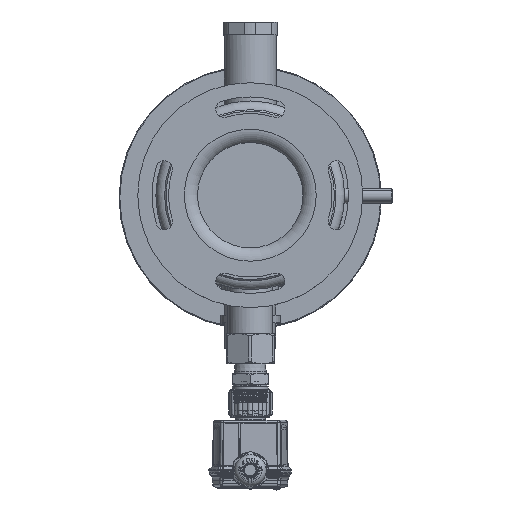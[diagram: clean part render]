
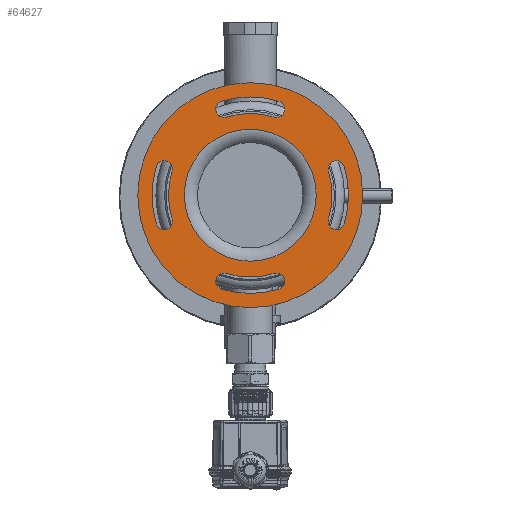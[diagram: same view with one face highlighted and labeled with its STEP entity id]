
A CAD part, top view. The second image highlights one B-rep face of the part: STEP entity #64627.
In plain terms, the highlighted planar face has unit normal (0, 0, 1).
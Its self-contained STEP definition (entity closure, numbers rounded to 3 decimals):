
#1595=FACE_BOUND('',#13892,.T.);
#1596=FACE_BOUND('',#13893,.T.);
#1597=FACE_BOUND('',#13894,.T.);
#1598=FACE_BOUND('',#13895,.T.);
#1599=FACE_BOUND('',#13896,.T.);
#6390=PLANE('',#69950);
#10025=FACE_OUTER_BOUND('',#13891,.T.);
#13891=EDGE_LOOP('',(#57971,#57972));
#13892=EDGE_LOOP('',(#57973,#57974,#57975,#57976));
#13893=EDGE_LOOP('',(#57977,#57978,#57979,#57980));
#13894=EDGE_LOOP('',(#57981,#57982,#57983,#57984));
#13895=EDGE_LOOP('',(#57985,#57986,#57987,#57988));
#13896=EDGE_LOOP('',(#57989,#57990));
#23584=CIRCLE('',#69904,5.5);
#23586=CIRCLE('',#69907,65.5);
#23588=CIRCLE('',#69910,5.5);
#23590=CIRCLE('',#69913,54.5);
#23592=CIRCLE('',#69916,5.5);
#23594=CIRCLE('',#69919,65.5);
#23596=CIRCLE('',#69922,5.5);
#23598=CIRCLE('',#69925,54.5);
#23600=CIRCLE('',#69928,5.5);
#23602=CIRCLE('',#69931,65.5);
#23604=CIRCLE('',#69934,5.5);
#23606=CIRCLE('',#69937,54.5);
#23608=CIRCLE('',#69940,5.5);
#23610=CIRCLE('',#69943,65.5);
#23612=CIRCLE('',#69946,5.5);
#23614=CIRCLE('',#69949,54.5);
#23615=CIRCLE('',#69951,75.);
#23616=CIRCLE('',#69952,75.);
#23617=CIRCLE('',#69953,44.);
#23618=CIRCLE('',#69954,44.);
#29592=VERTEX_POINT('',#164889);
#29593=VERTEX_POINT('',#164891);
#29595=VERTEX_POINT('',#164897);
#29597=VERTEX_POINT('',#164903);
#29600=VERTEX_POINT('',#164913);
#29601=VERTEX_POINT('',#164915);
#29603=VERTEX_POINT('',#164921);
#29605=VERTEX_POINT('',#164927);
#29608=VERTEX_POINT('',#164937);
#29609=VERTEX_POINT('',#164939);
#29611=VERTEX_POINT('',#164945);
#29613=VERTEX_POINT('',#164951);
#29616=VERTEX_POINT('',#164961);
#29617=VERTEX_POINT('',#164963);
#29619=VERTEX_POINT('',#164969);
#29621=VERTEX_POINT('',#164975);
#29622=VERTEX_POINT('',#164982);
#29623=VERTEX_POINT('',#164983);
#29624=VERTEX_POINT('',#164986);
#29625=VERTEX_POINT('',#164987);
#39041=EDGE_CURVE('',#29593,#29592,#23584,.T.);
#39044=EDGE_CURVE('',#29595,#29593,#23586,.T.);
#39047=EDGE_CURVE('',#29597,#29595,#23588,.T.);
#39050=EDGE_CURVE('',#29592,#29597,#23590,.T.);
#39053=EDGE_CURVE('',#29601,#29600,#23592,.T.);
#39056=EDGE_CURVE('',#29603,#29601,#23594,.T.);
#39059=EDGE_CURVE('',#29605,#29603,#23596,.T.);
#39062=EDGE_CURVE('',#29600,#29605,#23598,.T.);
#39065=EDGE_CURVE('',#29609,#29608,#23600,.T.);
#39068=EDGE_CURVE('',#29611,#29609,#23602,.T.);
#39071=EDGE_CURVE('',#29613,#29611,#23604,.T.);
#39074=EDGE_CURVE('',#29608,#29613,#23606,.T.);
#39077=EDGE_CURVE('',#29617,#29616,#23608,.T.);
#39080=EDGE_CURVE('',#29619,#29617,#23610,.T.);
#39083=EDGE_CURVE('',#29621,#29619,#23612,.T.);
#39086=EDGE_CURVE('',#29616,#29621,#23614,.T.);
#39087=EDGE_CURVE('',#29622,#29623,#23615,.T.);
#39088=EDGE_CURVE('',#29623,#29622,#23616,.T.);
#39089=EDGE_CURVE('',#29624,#29625,#23617,.T.);
#39090=EDGE_CURVE('',#29625,#29624,#23618,.T.);
#57971=ORIENTED_EDGE('',*,*,#39087,.T.);
#57972=ORIENTED_EDGE('',*,*,#39088,.T.);
#57973=ORIENTED_EDGE('',*,*,#39047,.T.);
#57974=ORIENTED_EDGE('',*,*,#39044,.T.);
#57975=ORIENTED_EDGE('',*,*,#39041,.T.);
#57976=ORIENTED_EDGE('',*,*,#39050,.T.);
#57977=ORIENTED_EDGE('',*,*,#39059,.T.);
#57978=ORIENTED_EDGE('',*,*,#39056,.T.);
#57979=ORIENTED_EDGE('',*,*,#39053,.T.);
#57980=ORIENTED_EDGE('',*,*,#39062,.T.);
#57981=ORIENTED_EDGE('',*,*,#39071,.T.);
#57982=ORIENTED_EDGE('',*,*,#39068,.T.);
#57983=ORIENTED_EDGE('',*,*,#39065,.T.);
#57984=ORIENTED_EDGE('',*,*,#39074,.T.);
#57985=ORIENTED_EDGE('',*,*,#39083,.T.);
#57986=ORIENTED_EDGE('',*,*,#39080,.T.);
#57987=ORIENTED_EDGE('',*,*,#39077,.T.);
#57988=ORIENTED_EDGE('',*,*,#39086,.T.);
#57989=ORIENTED_EDGE('',*,*,#39089,.F.);
#57990=ORIENTED_EDGE('',*,*,#39090,.F.);
#64627=ADVANCED_FACE('',(#10025,#1595,#1596,#1597,#1598,#1599),#6390,.T.);
#69904=AXIS2_PLACEMENT_3D('',#164892,#83925,#83926);
#69907=AXIS2_PLACEMENT_3D('',#164898,#83932,#83933);
#69910=AXIS2_PLACEMENT_3D('',#164904,#83939,#83940);
#69913=AXIS2_PLACEMENT_3D('',#164908,#83946,#83947);
#69916=AXIS2_PLACEMENT_3D('',#164916,#83953,#83954);
#69919=AXIS2_PLACEMENT_3D('',#164922,#83960,#83961);
#69922=AXIS2_PLACEMENT_3D('',#164928,#83967,#83968);
#69925=AXIS2_PLACEMENT_3D('',#164932,#83974,#83975);
#69928=AXIS2_PLACEMENT_3D('',#164940,#83981,#83982);
#69931=AXIS2_PLACEMENT_3D('',#164946,#83988,#83989);
#69934=AXIS2_PLACEMENT_3D('',#164952,#83995,#83996);
#69937=AXIS2_PLACEMENT_3D('',#164956,#84002,#84003);
#69940=AXIS2_PLACEMENT_3D('',#164964,#84009,#84010);
#69943=AXIS2_PLACEMENT_3D('',#164970,#84016,#84017);
#69946=AXIS2_PLACEMENT_3D('',#164976,#84023,#84024);
#69949=AXIS2_PLACEMENT_3D('',#164980,#84030,#84031);
#69950=AXIS2_PLACEMENT_3D('',#164981,#84032,#84033);
#69951=AXIS2_PLACEMENT_3D('',#164984,#84034,#84035);
#69952=AXIS2_PLACEMENT_3D('',#164985,#84036,#84037);
#69953=AXIS2_PLACEMENT_3D('',#164988,#84038,#84039);
#69954=AXIS2_PLACEMENT_3D('',#164989,#84040,#84041);
#83925=DIRECTION('center_axis',(0.,0.,
-1.));
#83926=DIRECTION('ref_axis',(-0.292,-0.957,0.));
#83932=DIRECTION('center_axis',(0.,0.,
-1.));
#83933=DIRECTION('ref_axis',(0.292,0.957,0.));
#83939=DIRECTION('center_axis',(0.,0.,
-1.));
#83940=DIRECTION('ref_axis',(-0.292,0.957,0.));
#83946=DIRECTION('center_axis',(0.,0.,
1.));
#83947=DIRECTION('ref_axis',(-0.292,-0.957,0.));
#83953=DIRECTION('center_axis',(0.,0.,
-1.));
#83954=DIRECTION('ref_axis',(0.292,0.957,0.));
#83960=DIRECTION('center_axis',(0.,0.,
-1.));
#83961=DIRECTION('ref_axis',(-0.292,-0.957,0.));
#83967=DIRECTION('center_axis',(0.,0.,
-1.));
#83968=DIRECTION('ref_axis',(0.292,-0.957,0.));
#83974=DIRECTION('center_axis',(0.,0.,
1.));
#83975=DIRECTION('ref_axis',(0.292,0.957,0.));
#83981=DIRECTION('center_axis',(0.,0.,
-1.));
#83982=DIRECTION('ref_axis',(-0.957,0.292,0.));
#83988=DIRECTION('center_axis',(0.,0.,
-1.));
#83989=DIRECTION('ref_axis',(0.957,-0.292,0.));
#83995=DIRECTION('center_axis',(0.,0.,
-1.));
#83996=DIRECTION('ref_axis',(0.957,0.292,0.));
#84002=DIRECTION('center_axis',(0.,0.,
1.));
#84003=DIRECTION('ref_axis',(-0.957,0.292,0.));
#84009=DIRECTION('center_axis',(0.,0.,
-1.));
#84010=DIRECTION('ref_axis',(0.957,-0.292,0.));
#84016=DIRECTION('center_axis',(0.,0.,
-1.));
#84017=DIRECTION('ref_axis',(-0.957,0.292,0.));
#84023=DIRECTION('center_axis',(0.,0.,
-1.));
#84024=DIRECTION('ref_axis',(-0.957,-0.292,0.));
#84030=DIRECTION('center_axis',(0.,0.,
1.));
#84031=DIRECTION('ref_axis',(0.957,-0.292,0.));
#84032=DIRECTION('center_axis',(0.,0.,
1.));
#84033=DIRECTION('ref_axis',(0.,1.,0.));
#84034=DIRECTION('center_axis',(0.,0.,
1.));
#84035=DIRECTION('ref_axis',(-1.,0.,0.));
#84036=DIRECTION('center_axis',(0.,0.,
1.));
#84037=DIRECTION('ref_axis',(-1.,0.,0.));
#84038=DIRECTION('center_axis',(0.,0.,
1.));
#84039=DIRECTION('ref_axis',(-1.,0.,0.));
#84040=DIRECTION('center_axis',(0.,0.,
1.));
#84041=DIRECTION('ref_axis',(-1.,0.,0.));
#164889=CARTESIAN_POINT('',(15.896,52.13,70.5));
#164891=CARTESIAN_POINT('',(19.104,62.652,70.5));
#164892=CARTESIAN_POINT('Origin',(17.5,57.391,70.5));
#164897=CARTESIAN_POINT('',(-19.104,62.652,70.5));
#164898=CARTESIAN_POINT('Origin',(0.,0.,
70.5));
#164903=CARTESIAN_POINT('',(-15.896,52.13,70.5));
#164904=CARTESIAN_POINT('Origin',(-17.5,57.391,70.5));
#164908=CARTESIAN_POINT('Origin',(0.,0.,
70.5));
#164913=CARTESIAN_POINT('',(-15.896,-52.13,70.5));
#164915=CARTESIAN_POINT('',(-19.104,-62.652,70.5));
#164916=CARTESIAN_POINT('Origin',(-17.5,-57.391,70.5));
#164921=CARTESIAN_POINT('',(19.104,-62.652,70.5));
#164922=CARTESIAN_POINT('Origin',(0.,0.,
70.5));
#164927=CARTESIAN_POINT('',(15.896,-52.13,70.5));
#164928=CARTESIAN_POINT('Origin',(17.5,-57.391,70.5));
#164932=CARTESIAN_POINT('Origin',(0.,0.,
70.5));
#164937=CARTESIAN_POINT('',(52.13,-15.896,70.5));
#164939=CARTESIAN_POINT('',(62.652,-19.104,70.5));
#164940=CARTESIAN_POINT('Origin',(57.391,-17.5,70.5));
#164945=CARTESIAN_POINT('',(62.652,19.104,70.5));
#164946=CARTESIAN_POINT('Origin',(0.,0.,
70.5));
#164951=CARTESIAN_POINT('',(52.13,15.896,70.5));
#164952=CARTESIAN_POINT('Origin',(57.391,17.5,70.5));
#164956=CARTESIAN_POINT('Origin',(0.,0.,
70.5));
#164961=CARTESIAN_POINT('',(-52.13,15.896,70.5));
#164963=CARTESIAN_POINT('',(-62.652,19.104,70.5));
#164964=CARTESIAN_POINT('Origin',(-57.391,17.5,70.5));
#164969=CARTESIAN_POINT('',(-62.652,-19.104,70.5));
#164970=CARTESIAN_POINT('Origin',(0.,0.,
70.5));
#164975=CARTESIAN_POINT('',(-52.13,-15.896,70.5));
#164976=CARTESIAN_POINT('Origin',(-57.391,-17.5,70.5));
#164980=CARTESIAN_POINT('Origin',(0.,0.,
70.5));
#164981=CARTESIAN_POINT('Origin',(-44.,0.,
70.5));
#164982=CARTESIAN_POINT('',(-75.,0.,70.5));
#164983=CARTESIAN_POINT('',(75.,0.,70.5));
#164984=CARTESIAN_POINT('Origin',(0.,0.,
70.5));
#164985=CARTESIAN_POINT('Origin',(0.,0.,
70.5));
#164986=CARTESIAN_POINT('',(-44.,0.,70.5));
#164987=CARTESIAN_POINT('',(0.,-44.,70.5));
#164988=CARTESIAN_POINT('Origin',(0.,0.,
70.5));
#164989=CARTESIAN_POINT('Origin',(0.,0.,
70.5));
